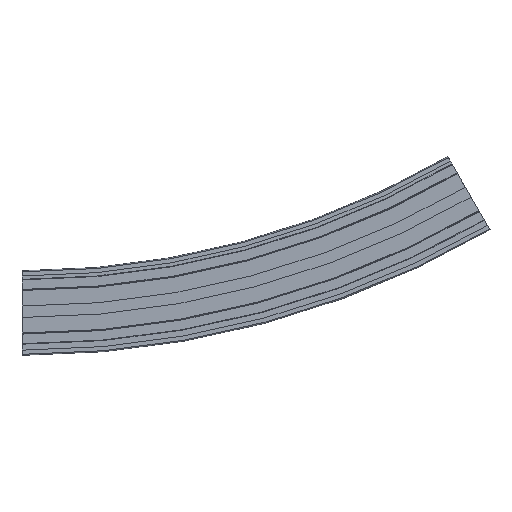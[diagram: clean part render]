
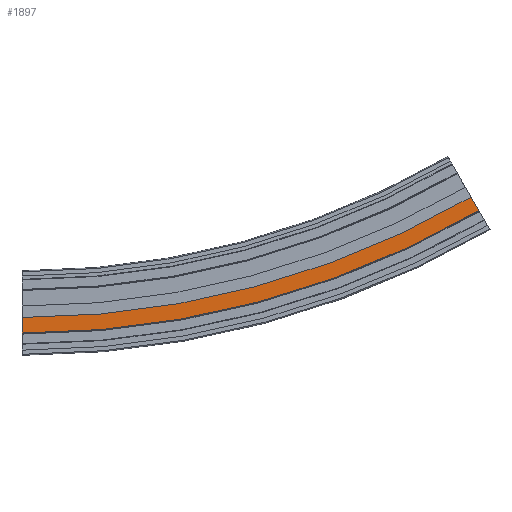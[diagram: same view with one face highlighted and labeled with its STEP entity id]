
A CAD part, front view. The second image highlights one B-rep face of the part: STEP entity #1897.
In plain terms, the highlighted planar face has unit normal (0, -1, 0).
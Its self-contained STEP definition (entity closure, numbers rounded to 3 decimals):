
#1839=CARTESIAN_POINT('',(440.25,-43.0,57.965));
#1840=VERTEX_POINT('',#1839);
#1847=CARTESIAN_POINT('',(0.0,-43.0,-60.));
#1848=VERTEX_POINT('',#1847);
#1849=CARTESIAN_POINT('',(0.,-43.0,820.5));
#1850=DIRECTION('',(0.0,-1.0,0.0));
#1851=DIRECTION('',(-0.5,0.0,0.866));
#1852=AXIS2_PLACEMENT_3D('',#1849,#1850,#1851);
#1853=CIRCLE('',#1852,880.5);
#1854=EDGE_CURVE('',#1848,#1840,#1853,.T.);
#1866=CARTESIAN_POINT('',(0.0,-43.0,-52.5));
#1867=DIRECTION('',(0.0,-1.0,0.0));
#1868=DIRECTION('',(0.0,0.0,-1.0));
#1869=AXIS2_PLACEMENT_3D('',#1866,#1867,#1868);
#1870=PLANE('',#1869);
#1871=CARTESIAN_POINT('',(432.75,-43.0,70.955));
#1872=VERTEX_POINT('',#1871);
#1873=CARTESIAN_POINT('',(440.25,-43.0,57.965));
#1874=DIRECTION('',(-0.5,0.0,0.866));
#1875=VECTOR('',#1874,15.0);
#1876=LINE('',#1873,#1875);
#1877=EDGE_CURVE('',#1840,#1872,#1876,.T.);
#1878=ORIENTED_EDGE('',*,*,#1877,.T.);
#1879=CARTESIAN_POINT('',(0.0,-43.0,-45.));
#1880=VERTEX_POINT('',#1879);
#1881=CARTESIAN_POINT('',(0.,-43.0,820.5));
#1882=DIRECTION('',(0.0,-1.,0.0));
#1883=DIRECTION('',(-0.5,0.0,0.866));
#1884=AXIS2_PLACEMENT_3D('',#1881,#1882,#1883);
#1885=CIRCLE('',#1884,865.5);
#1886=EDGE_CURVE('',#1880,#1872,#1885,.T.);
#1887=ORIENTED_EDGE('',*,*,#1886,.F.);
#1888=CARTESIAN_POINT('',(0.0,-43.0,-45.));
#1889=DIRECTION('',(0.0,0.0,-1.0));
#1890=VECTOR('',#1889,15.0);
#1891=LINE('',#1888,#1890);
#1892=EDGE_CURVE('',#1880,#1848,#1891,.T.);
#1893=ORIENTED_EDGE('',*,*,#1892,.T.);
#1894=ORIENTED_EDGE('',*,*,#1854,.T.);
#1895=EDGE_LOOP('',(#1878,#1887,#1893,#1894));
#1896=FACE_OUTER_BOUND('',#1895,.T.);
#1897=ADVANCED_FACE('',(#1896),#1870,.T.);
